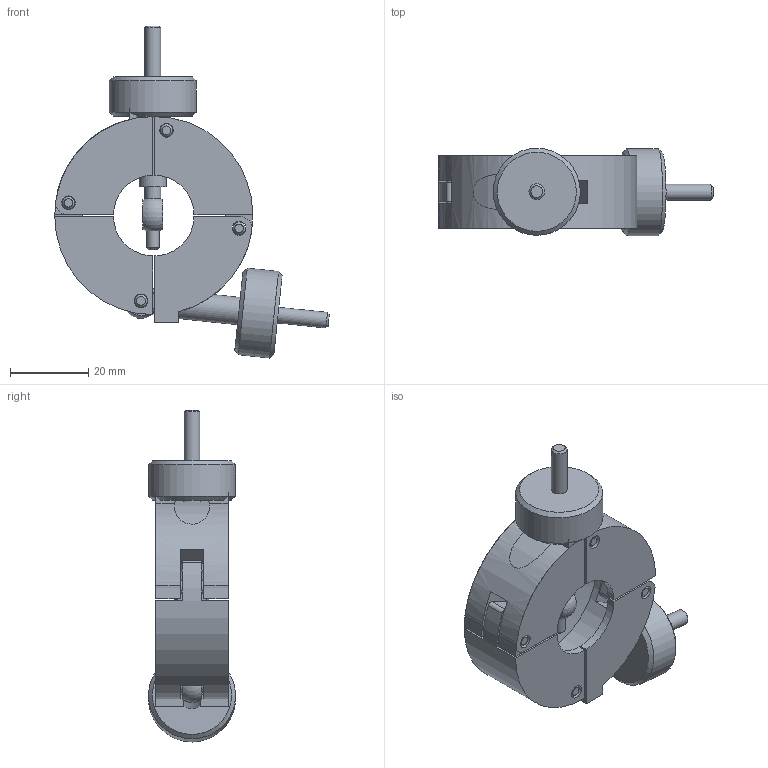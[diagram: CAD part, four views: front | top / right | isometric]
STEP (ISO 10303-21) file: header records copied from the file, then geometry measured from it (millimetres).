
FILE_DESCRIPTION( ( 'Unknown' ), '1' );
FILE_NAME( 'X:/Daten ( aktueller Bestand )/Projekte und Zeichnungen/Solid Edge/5 Spannringe/Kunststoff/Spannkette/1356.stp', 'Unknown', ( 'Unknown' ), ( 'Unknown' ), 'XStep 1.0', 'Unknown', ' ' );
FILE_SCHEMA( ( 'automotive_design' ) );
Length unit declared in the file: millimetre
Products named in the file (5): Assem1; 1351-1; 1351-2; 1351-3; 1351-1-1
Bounding box: 70 x 22.19 x 84.66 mm (x, y, z)
Volume: 40781.2 mm3; surface area: 23244.3 mm2
Topology: 13 solids, 13 shells, 201 faces, 511 edges, 342 vertices
Faces by surface type: plane 100, cylinder 71, cone 28, sphere 2
Full cylindrical faces by diameter (mm): 3.2 x5, 3.5 x18, 4 x4, 7 x2, 22.193 x2
Entity records: 2375 total; most frequent: CARTESIAN_POINT 386, DIRECTION 381, ORIENTED_EDGE 304, EDGE_CURVE 152, AXIS2_PLACEMENT_3D 150, VERTEX_POINT 111, EDGE_LOOP 103, FACE_OUTER_BOUND 81
